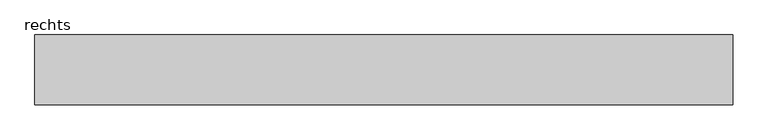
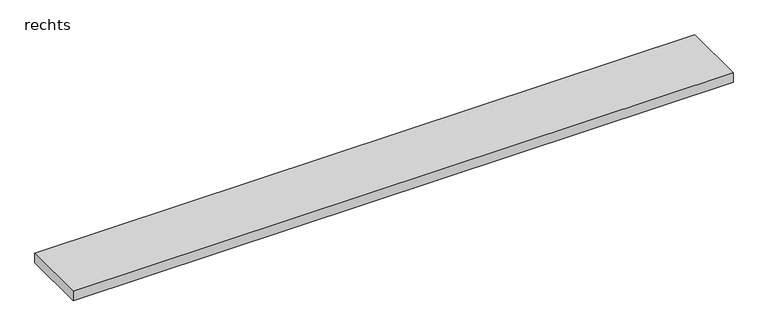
"""IFC4 building model written with IfcOpenShell, lengths in millimetres: proxy geometry, 400_35_NS_betonstrook : rechts."""

from ifc_helpers import new_model, si_unit, origin, origin_with_axes, place, context, project, spatial, polyline, outline, extrude, source, transform, mapped, element, save


def rechts_cb2a7235(model_context):
    return source(origin(), model_context, "Body", "SweptSolid", [
        extrude(outline(polyline([(-1000.0, 0.0), (1000.0, 0.0), (1000.0, -200.0), (-1000.0, -200.0), (-1000.0, 0.0)])), origin_with_axes(), (0.0, 0.0, 1.0), 30.0),
    ])


if __name__ == "__main__":
    model = new_model("IFC4")
    model_context = context("Model", 3, world=origin())
    ifc_project = project(units=[si_unit("LENGTHUNIT", "METRE", prefix="MILLI")], contexts=[model_context])
    site = spatial("IfcSite", under=ifc_project)
    building = spatial("IfcBuilding", under=site)
    placement = place(None, origin())
    rechts_shape = rechts_cb2a7235(model_context)
    element("IfcBuildingElementProxy", 1, Name="400_35_NS_betonstrook : rechts", ObjectType="400_35_NS_betonstrook : rechts", at=placement, inside=building, context=model_context, shape_type="MappedRepresentation", body=[
        mapped(rechts_shape, transform((0.0, 0.0, 0.0), x_axis=(1.0, 0.0, 0.0), y_axis=(0.0, 1.0, 0.0), z_axis=(0.0, 0.0, 1.0))),
    ])
    save(model, "model.ifc")
